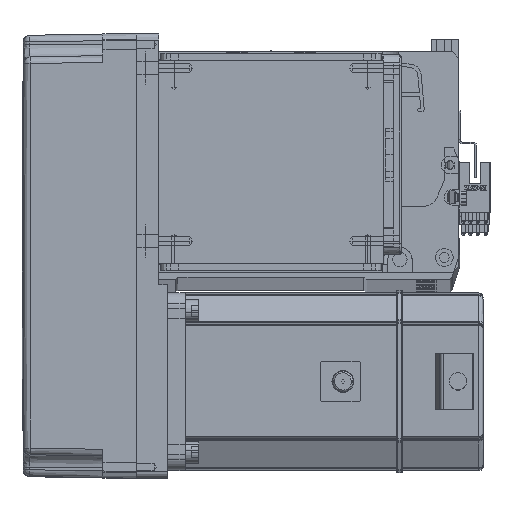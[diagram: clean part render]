
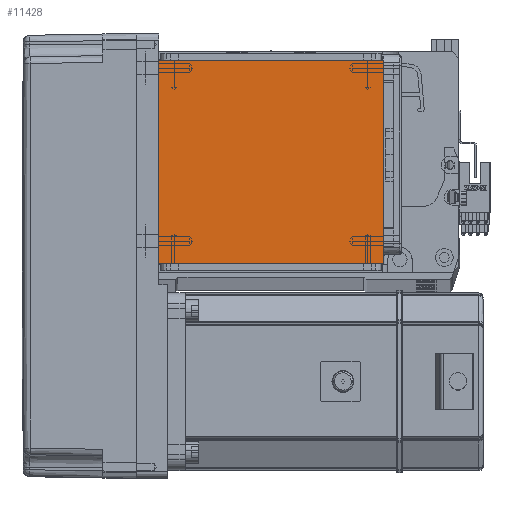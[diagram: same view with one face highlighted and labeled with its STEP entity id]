
A CAD part, top view. The second image highlights one B-rep face of the part: STEP entity #11428.
In plain terms, the highlighted planar face has unit normal (0, 0, 1).
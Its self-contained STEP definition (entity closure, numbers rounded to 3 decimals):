
#1989 = DIRECTION ( 'NONE',  ( -1., 0., 0. ) ) ;
#2105 = CARTESIAN_POINT ( 'NONE',  ( 0., 0., 115. ) ) ;
#3202 = EDGE_CURVE ( 'NONE', #14854, #27726, #52262, .T. ) ;
#4893 = VERTEX_POINT ( 'NONE', #5138 ) ;
#5138 = CARTESIAN_POINT ( 'NONE',  ( 50.5, 111.5, 115. ) ) ;
#7318 = DIRECTION ( 'NONE',  ( 1., 0., 0. ) ) ;
#7348 = LINE ( 'NONE', #32497, #35861 ) ;
#10040 = DIRECTION ( 'NONE',  ( 0., 1., 0. ) ) ;
#11428 = ADVANCED_FACE ( 'NONE', ( #59090 ), #11867, .T. ) ;
#11867 = PLANE ( 'NONE',  #28007 ) ;
#13624 = ORIENTED_EDGE ( 'NONE', *, *, #40956, .T. ) ;
#14854 = VERTEX_POINT ( 'NONE', #17683 ) ;
#17207 = CARTESIAN_POINT ( 'NONE',  ( -70.004, 20., 115. ) ) ;
#17683 = CARTESIAN_POINT ( 'NONE',  ( 50.5, 20., 115. ) ) ;
#21100 = VECTOR ( 'NONE', #60345, 1000. ) ;
#24015 = CARTESIAN_POINT ( 'NONE',  ( -50.5, 111.5, 115. ) ) ;
#27097 = DIRECTION ( 'NONE',  ( 0., 0., 1. ) ) ;
#27726 = VERTEX_POINT ( 'NONE', #41978 ) ;
#28007 = AXIS2_PLACEMENT_3D ( 'NONE', #2105, #27097, #7318 ) ;
#28851 = CARTESIAN_POINT ( 'NONE',  ( -50.5, 122., 115. ) ) ;
#32497 = CARTESIAN_POINT ( 'NONE',  ( -70.004, 111.5, 115. ) ) ;
#33475 = VERTEX_POINT ( 'NONE', #24015 ) ;
#35723 = CARTESIAN_POINT ( 'NONE',  ( 50.5, 122., 115. ) ) ;
#35861 = VECTOR ( 'NONE', #52610, 1000. ) ;
#38583 = EDGE_CURVE ( 'NONE', #33475, #27726, #62701, .T. ) ;
#40956 = EDGE_CURVE ( 'NONE', #14854, #4893, #50125, .T. ) ;
#41978 = CARTESIAN_POINT ( 'NONE',  ( -50.5, 20., 115. ) ) ;
#43570 = EDGE_CURVE ( 'NONE', #33475, #4893, #7348, .T. ) ;
#47711 = VECTOR ( 'NONE', #10040, 1000. ) ;
#48968 = VECTOR ( 'NONE', #1989, 1000. ) ;
#49326 = ORIENTED_EDGE ( 'NONE', *, *, #3202, .F. ) ;
#50125 = LINE ( 'NONE', #35723, #47711 ) ;
#52262 = LINE ( 'NONE', #17207, #48968 ) ;
#52610 = DIRECTION ( 'NONE',  ( 1., 0., 0. ) ) ;
#53267 = ORIENTED_EDGE ( 'NONE', *, *, #38583, .T. ) ;
#57635 = EDGE_LOOP ( 'NONE', ( #58649, #53267, #49326, #13624 ) ) ;
#58649 = ORIENTED_EDGE ( 'NONE', *, *, #43570, .F. ) ;
#59090 = FACE_OUTER_BOUND ( 'NONE', #57635, .T. ) ;
#60345 = DIRECTION ( 'NONE',  ( 0., -1., 0. ) ) ;
#62701 = LINE ( 'NONE', #28851, #21100 ) ;
